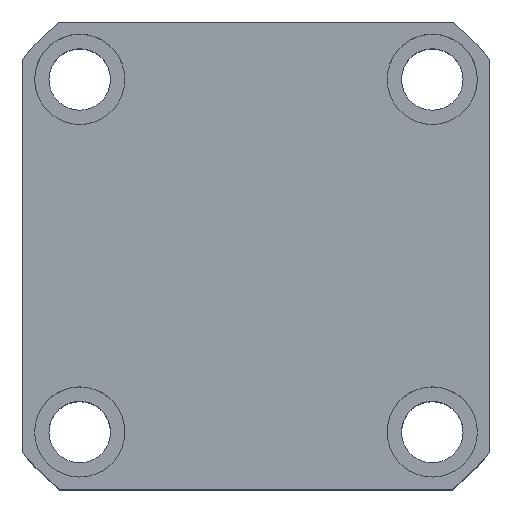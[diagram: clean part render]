
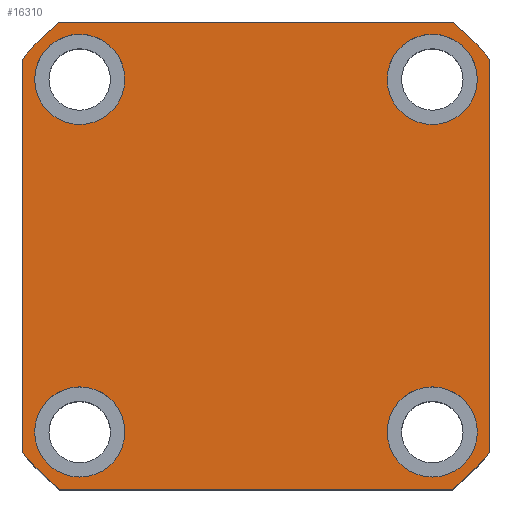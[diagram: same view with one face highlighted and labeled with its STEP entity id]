
A CAD part, top view. The second image highlights one B-rep face of the part: STEP entity #16310.
In plain terms, the highlighted planar face has unit normal (0, 0, 1) as drawn and (0, 0, -1) by its records, which use the part's own axes.
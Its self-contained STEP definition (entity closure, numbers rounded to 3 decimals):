
#124 = DIRECTION ( 'NONE',  ( 1., 0., 0. ) ) ;
#228 = VERTEX_POINT ( 'NONE', #19819 ) ;
#412 = AXIS2_PLACEMENT_3D ( 'NONE', #5464, #16469, #7063 ) ;
#417 = EDGE_CURVE ( 'NONE', #3212, #4313, #12698, .T. ) ;
#465 = CARTESIAN_POINT ( 'NONE',  ( 54., 43., 0. ) ) ;
#551 = CARTESIAN_POINT ( 'NONE',  ( 57., 57., 0. ) ) ;
#610 = EDGE_CURVE ( 'NONE', #13888, #6225, #20149, .T. ) ;
#1030 = DIRECTION ( 'NONE',  ( 1., 0., 0. ) ) ;
#1260 = CARTESIAN_POINT ( 'NONE',  ( 43., -43., 0. ) ) ;
#1307 = DIRECTION ( 'NONE',  ( 0., 0., -1. ) ) ;
#1389 = CARTESIAN_POINT ( 'NONE',  ( -43., 43., 0. ) ) ;
#1681 = VERTEX_POINT ( 'NONE', #19999 ) ;
#1742 = ORIENTED_EDGE ( 'NONE', *, *, #17629, .F. ) ;
#1761 = CARTESIAN_POINT ( 'NONE',  ( 57., 47.971, 0. ) ) ;
#1768 = CARTESIAN_POINT ( 'NONE',  ( 54., -43., 0. ) ) ;
#1993 = FACE_BOUND ( 'NONE', #19111, .T. ) ;
#2249 = EDGE_CURVE ( 'NONE', #4254, #4126, #12917, .T. ) ;
#2578 = CARTESIAN_POINT ( 'NONE',  ( 0., 0., 0. ) ) ;
#2607 = CIRCLE ( 'NONE', #2944, 11. ) ;
#2858 = DIRECTION ( 'NONE',  ( -1., 0., 0. ) ) ;
#2907 = CARTESIAN_POINT ( 'NONE',  ( 0., 0., 0. ) ) ;
#2944 = AXIS2_PLACEMENT_3D ( 'NONE', #10743, #1307, #12327 ) ;
#2984 = DIRECTION ( 'NONE',  ( -1., 0., 0. ) ) ;
#3212 = VERTEX_POINT ( 'NONE', #8541 ) ;
#3314 = DIRECTION ( 'NONE',  ( 0., 0., -1. ) ) ;
#3319 = LINE ( 'NONE', #19942, #11187 ) ;
#3639 = CIRCLE ( 'NONE', #9907, 11. ) ;
#3775 = LINE ( 'NONE', #551, #11168 ) ;
#3816 = ORIENTED_EDGE ( 'NONE', *, *, #417, .F. ) ;
#4005 = AXIS2_PLACEMENT_3D ( 'NONE', #2578, #17415, #13287 ) ;
#4126 = VERTEX_POINT ( 'NONE', #17138 ) ;
#4254 = VERTEX_POINT ( 'NONE', #1761 ) ;
#4313 = VERTEX_POINT ( 'NONE', #16082 ) ;
#4342 = ORIENTED_EDGE ( 'NONE', *, *, #12833, .F. ) ;
#4437 = EDGE_LOOP ( 'NONE', ( #18552, #8405 ) ) ;
#4450 = EDGE_CURVE ( 'NONE', #4313, #4254, #3775, .T. ) ;
#4495 = DIRECTION ( 'NONE',  ( 1., 0., 0. ) ) ;
#4767 = AXIS2_PLACEMENT_3D ( 'NONE', #1260, #12276, #2858 ) ;
#4794 = CIRCLE ( 'NONE', #20122, 11. ) ;
#5164 = EDGE_CURVE ( 'NONE', #1681, #15468, #3639, .T. ) ;
#5346 = DIRECTION ( 'NONE',  ( 0., 1., 0. ) ) ;
#5409 = CARTESIAN_POINT ( 'NONE',  ( -57., -47.971, 0. ) ) ;
#5464 = CARTESIAN_POINT ( 'NONE',  ( 0., 0., 0. ) ) ;
#6198 = FACE_BOUND ( 'NONE', #6862, .T. ) ;
#6225 = VERTEX_POINT ( 'NONE', #19060 ) ;
#6251 = AXIS2_PLACEMENT_3D ( 'NONE', #16387, #6981, #17996 ) ;
#6318 = CARTESIAN_POINT ( 'NONE',  ( -32., 43., 0. ) ) ;
#6327 = VECTOR ( 'NONE', #15352, 1000. ) ;
#6405 = CARTESIAN_POINT ( 'NONE',  ( -43., -43., 0. ) ) ;
#6709 = FACE_BOUND ( 'NONE', #4437, .T. ) ;
#6862 = EDGE_LOOP ( 'NONE', ( #13735, #4342 ) ) ;
#6909 = EDGE_LOOP ( 'NONE', ( #11347, #17144, #3816, #13409, #10235, #1742, #10721, #18347 ) ) ;
#6981 = DIRECTION ( 'NONE',  ( 0., 0., 1. ) ) ;
#7013 = DIRECTION ( 'NONE',  ( 0., -1., 0. ) ) ;
#7063 = DIRECTION ( 'NONE',  ( 1., 0., 0. ) ) ;
#7455 = AXIS2_PLACEMENT_3D ( 'NONE', #17382, #9587, #124 ) ;
#7518 = CARTESIAN_POINT ( 'NONE',  ( 43., -43., 0. ) ) ;
#7959 = EDGE_CURVE ( 'NONE', #4126, #10538, #10499, .T. ) ;
#7987 = CARTESIAN_POINT ( 'NONE',  ( 43., 43., 0. ) ) ;
#8075 = EDGE_CURVE ( 'NONE', #9479, #11507, #2607, .T. ) ;
#8368 = CARTESIAN_POINT ( 'NONE',  ( -32., -43., 0. ) ) ;
#8405 = ORIENTED_EDGE ( 'NONE', *, *, #610, .F. ) ;
#8541 = CARTESIAN_POINT ( 'NONE',  ( 47.971, -57., 0. ) ) ;
#8665 = CARTESIAN_POINT ( 'NONE',  ( -57., 47.971, 0. ) ) ;
#8682 = CIRCLE ( 'NONE', #412, 74.5 ) ;
#8780 = DIRECTION ( 'NONE',  ( 0., 0., -1. ) ) ;
#9111 = DIRECTION ( 'NONE',  ( -1., 0., 0. ) ) ;
#9154 = AXIS2_PLACEMENT_3D ( 'NONE', #7987, #19006, #9560 ) ;
#9161 = VERTEX_POINT ( 'NONE', #1768 ) ;
#9175 = AXIS2_PLACEMENT_3D ( 'NONE', #7518, #18540, #9111 ) ;
#9479 = VERTEX_POINT ( 'NONE', #19688 ) ;
#9560 = DIRECTION ( 'NONE',  ( -1., 0., 0. ) ) ;
#9587 = DIRECTION ( 'NONE',  ( 0., 0., 1. ) ) ;
#9907 = AXIS2_PLACEMENT_3D ( 'NONE', #1389, #12395, #2984 ) ;
#10235 = ORIENTED_EDGE ( 'NONE', *, *, #15880, .F. ) ;
#10499 = LINE ( 'NONE', #16525, #6327 ) ;
#10538 = VERTEX_POINT ( 'NONE', #11583 ) ;
#10721 = ORIENTED_EDGE ( 'NONE', *, *, #11926, .F. ) ;
#10743 = CARTESIAN_POINT ( 'NONE',  ( 43., 43., 0. ) ) ;
#10847 = VERTEX_POINT ( 'NONE', #8665 ) ;
#11058 = EDGE_CURVE ( 'NONE', #16171, #9161, #19371, .T. ) ;
#11168 = VECTOR ( 'NONE', #5346, 1000. ) ;
#11187 = VECTOR ( 'NONE', #1030, 1000. ) ;
#11347 = ORIENTED_EDGE ( 'NONE', *, *, #2249, .F. ) ;
#11507 = VERTEX_POINT ( 'NONE', #465 ) ;
#11583 = CARTESIAN_POINT ( 'NONE',  ( -47.971, 57., 0. ) ) ;
#11926 = EDGE_CURVE ( 'NONE', #10538, #10847, #17128, .T. ) ;
#11949 = ORIENTED_EDGE ( 'NONE', *, *, #16849, .F. ) ;
#12276 = DIRECTION ( 'NONE',  ( 0., 0., -1. ) ) ;
#12327 = DIRECTION ( 'NONE',  ( -1., 0., 0. ) ) ;
#12395 = DIRECTION ( 'NONE',  ( 0., 0., -1. ) ) ;
#12431 = ORIENTED_EDGE ( 'NONE', *, *, #11058, .F. ) ;
#12546 = VECTOR ( 'NONE', #7013, 1000. ) ;
#12575 = EDGE_CURVE ( 'NONE', #15468, #1681, #4794, .T. ) ;
#12698 = CIRCLE ( 'NONE', #4005, 74.5 ) ;
#12734 = CARTESIAN_POINT ( 'NONE',  ( -43., 43., 0. ) ) ;
#12833 = EDGE_CURVE ( 'NONE', #11507, #9479, #15864, .T. ) ;
#12917 = CIRCLE ( 'NONE', #6251, 74.5 ) ;
#13205 = AXIS2_PLACEMENT_3D ( 'NONE', #6405, #16709, #15862 ) ;
#13282 = CIRCLE ( 'NONE', #9175, 11. ) ;
#13287 = DIRECTION ( 'NONE',  ( 1., 0., 0. ) ) ;
#13295 = CARTESIAN_POINT ( 'NONE',  ( -57., 57., 0. ) ) ;
#13409 = ORIENTED_EDGE ( 'NONE', *, *, #19126, .F. ) ;
#13530 = LINE ( 'NONE', #13295, #12546 ) ;
#13735 = ORIENTED_EDGE ( 'NONE', *, *, #8075, .F. ) ;
#13888 = VERTEX_POINT ( 'NONE', #8368 ) ;
#13894 = DIRECTION ( 'NONE',  ( 0., 0., 1. ) ) ;
#13943 = EDGE_CURVE ( 'NONE', #6225, #13888, #16340, .T. ) ;
#14048 = FACE_OUTER_BOUND ( 'NONE', #6909, .T. ) ;
#14315 = DIRECTION ( 'NONE',  ( -1., 0., 0. ) ) ;
#14655 = AXIS2_PLACEMENT_3D ( 'NONE', #18217, #8780, #19793 ) ;
#15352 = DIRECTION ( 'NONE',  ( -1., 0., 0. ) ) ;
#15468 = VERTEX_POINT ( 'NONE', #6318 ) ;
#15799 = ORIENTED_EDGE ( 'NONE', *, *, #5164, .F. ) ;
#15862 = DIRECTION ( 'NONE',  ( -1., 0., 0. ) ) ;
#15864 = CIRCLE ( 'NONE', #9154, 11. ) ;
#15880 = EDGE_CURVE ( 'NONE', #17578, #228, #8682, .T. ) ;
#16082 = CARTESIAN_POINT ( 'NONE',  ( 57., -47.971, 0. ) ) ;
#16171 = VERTEX_POINT ( 'NONE', #19947 ) ;
#16310 = ADVANCED_FACE ( 'NONE', ( #6709, #1993, #6198, #18284, #14048 ), #19035, .F. ) ;
#16340 = CIRCLE ( 'NONE', #14655, 11. ) ;
#16387 = CARTESIAN_POINT ( 'NONE',  ( 0., 0., 0. ) ) ;
#16469 = DIRECTION ( 'NONE',  ( 0., 0., 1. ) ) ;
#16525 = CARTESIAN_POINT ( 'NONE',  ( -57., 57., 0. ) ) ;
#16709 = DIRECTION ( 'NONE',  ( 0., 0., -1. ) ) ;
#16849 = EDGE_CURVE ( 'NONE', #9161, #16171, #13282, .T. ) ;
#17128 = CIRCLE ( 'NONE', #17728, 74.5 ) ;
#17138 = CARTESIAN_POINT ( 'NONE',  ( 47.971, 57., 0. ) ) ;
#17144 = ORIENTED_EDGE ( 'NONE', *, *, #4450, .F. ) ;
#17382 = CARTESIAN_POINT ( 'NONE',  ( 0., 0., 0. ) ) ;
#17415 = DIRECTION ( 'NONE',  ( 0., 0., 1. ) ) ;
#17578 = VERTEX_POINT ( 'NONE', #5409 ) ;
#17629 = EDGE_CURVE ( 'NONE', #10847, #17578, #13530, .T. ) ;
#17728 = AXIS2_PLACEMENT_3D ( 'NONE', #2907, #13894, #4495 ) ;
#17996 = DIRECTION ( 'NONE',  ( 1., 0., 0. ) ) ;
#18217 = CARTESIAN_POINT ( 'NONE',  ( -43., -43., 0. ) ) ;
#18284 = FACE_BOUND ( 'NONE', #19364, .T. ) ;
#18347 = ORIENTED_EDGE ( 'NONE', *, *, #7959, .F. ) ;
#18540 = DIRECTION ( 'NONE',  ( 0., 0., -1. ) ) ;
#18552 = ORIENTED_EDGE ( 'NONE', *, *, #13943, .F. ) ;
#18728 = ORIENTED_EDGE ( 'NONE', *, *, #12575, .F. ) ;
#19006 = DIRECTION ( 'NONE',  ( 0., 0., -1. ) ) ;
#19035 = PLANE ( 'NONE',  #7455 ) ;
#19060 = CARTESIAN_POINT ( 'NONE',  ( -54., -43., 0. ) ) ;
#19111 = EDGE_LOOP ( 'NONE', ( #12431, #11949 ) ) ;
#19126 = EDGE_CURVE ( 'NONE', #228, #3212, #3319, .T. ) ;
#19364 = EDGE_LOOP ( 'NONE', ( #15799, #18728 ) ) ;
#19371 = CIRCLE ( 'NONE', #4767, 11. ) ;
#19688 = CARTESIAN_POINT ( 'NONE',  ( 32., 43., 0. ) ) ;
#19793 = DIRECTION ( 'NONE',  ( -1., 0., 0. ) ) ;
#19819 = CARTESIAN_POINT ( 'NONE',  ( -47.971, -57., 0. ) ) ;
#19942 = CARTESIAN_POINT ( 'NONE',  ( -57., -57., 0. ) ) ;
#19947 = CARTESIAN_POINT ( 'NONE',  ( 32., -43., 0. ) ) ;
#19999 = CARTESIAN_POINT ( 'NONE',  ( -54., 43., 0. ) ) ;
#20122 = AXIS2_PLACEMENT_3D ( 'NONE', #12734, #3314, #14315 ) ;
#20149 = CIRCLE ( 'NONE', #13205, 11. ) ;
